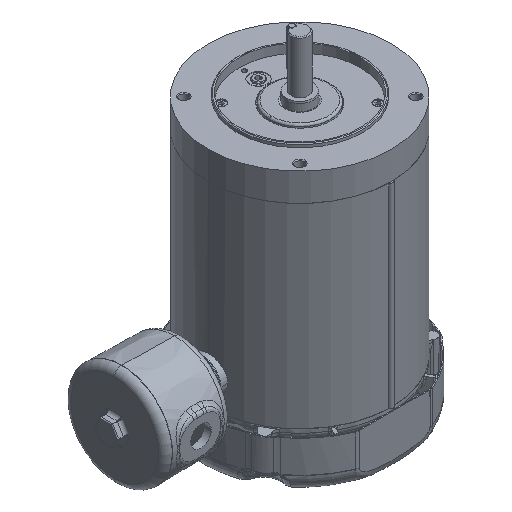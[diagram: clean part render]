
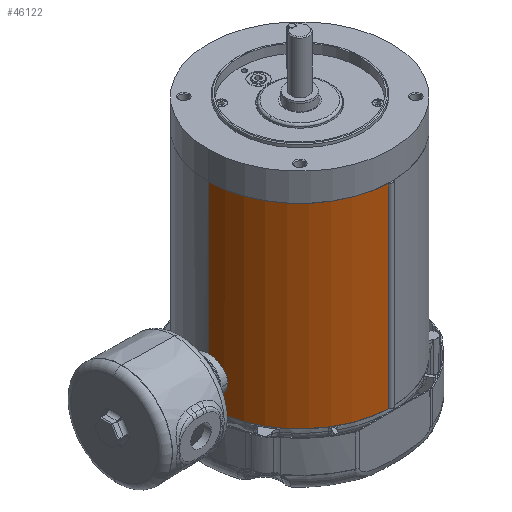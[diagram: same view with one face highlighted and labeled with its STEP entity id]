
A CAD part, isometric view. The second image highlights one B-rep face of the part: STEP entity #46122.
In plain terms, the highlighted cylindrical face has radius 83.21 mm (diameter 166.421 mm), a partial arc.
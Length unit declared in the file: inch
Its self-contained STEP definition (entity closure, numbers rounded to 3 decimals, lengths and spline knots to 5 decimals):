
#226 = CARTESIAN_POINT ( 'NONE',  ( -3.24569, -0.44496, 1.40909 ) ) ;
#1050 = VERTEX_POINT ( 'NONE', #51335 ) ;
#1508 = CARTESIAN_POINT ( 'NONE',  ( -3.276, 0., 1.6175 ) ) ;
#3860 = CARTESIAN_POINT ( 'NONE',  ( -3.26581, -0.25849, 0.52341 ) ) ;
#7529 = AXIS2_PLACEMENT_3D ( 'NONE', #16577, #24428, #34011 ) ;
#7751 = DIRECTION ( 'NONE',  ( 0., 0., -1. ) ) ;
#13022 = CARTESIAN_POINT ( 'NONE',  ( -3.276, 0., 7. ) ) ;
#13426 = CARTESIAN_POINT ( 'NONE',  ( -3.26675, -0.24635, 0.51751 ) ) ;
#16577 = CARTESIAN_POINT ( 'NONE',  ( 0., 0., 7. ) ) ;
#18463 = CARTESIAN_POINT ( 'NONE',  ( -3.26076, -0.31584, 1.52366 ) ) ;
#18716 = LINE ( 'NONE', #114218, #91515 ) ;
#18882 = CARTESIAN_POINT ( 'NONE',  ( -3.26966, -0.2101, 1.5806 ) ) ;
#21168 = VERTEX_POINT ( 'NONE', #79592 ) ;
#23897 = AXIS2_PLACEMENT_3D ( 'NONE', #49620, #57513, #77478 ) ;
#24428 = DIRECTION ( 'NONE',  ( 0., 0., -1. ) ) ;
#26703 = EDGE_CURVE ( 'NONE', #63861, #21168, #18716, .T. ) ;
#28086 = FACE_OUTER_BOUND ( 'NONE', #65636, .T. ) ;
#28394 = CARTESIAN_POINT ( 'NONE',  ( -3.25626, -0.35923, 1.49237 ) ) ;
#29120 = VERTEX_POINT ( 'NONE', #32437 ) ;
#29192 = CARTESIAN_POINT ( 'NONE',  ( -3.23888, -0.49198, 1.34361 ) ) ;
#29522 = CARTESIAN_POINT ( 'NONE',  ( -3.26283, -0.29371, 0.54259 ) ) ;
#29581 = VECTOR ( 'NONE', #101583, 39.37008 ) ;
#29619 = CARTESIAN_POINT ( 'NONE',  ( -3.23678, -0.50554, 1.32048 ) ) ;
#32437 = CARTESIAN_POINT ( 'NONE',  ( -0.09055, -3.27475, 0. ) ) ;
#32479 = CARTESIAN_POINT ( 'NONE',  ( -3.27339, -0.13312, 0.47742 ) ) ;
#34011 = DIRECTION ( 'NONE',  ( -1., 0., 0. ) ) ;
#35230 = ORIENTED_EDGE ( 'NONE', *, *, #26703, .T. ) ;
#37130 = ORIENTED_EDGE ( 'NONE', *, *, #40736, .T. ) ;
#38371 = CARTESIAN_POINT ( 'NONE',  ( -3.27431, -0.10613, 1.60782 ) ) ;
#40736 = EDGE_CURVE ( 'NONE', #41468, #1050, #122264, .T. ) ;
#41468 = VERTEX_POINT ( 'NONE', #94441 ) ;
#41639 = CARTESIAN_POINT ( 'NONE',  ( -3.25033, -0.40969, 0.63211 ) ) ;
#42039 = CARTESIAN_POINT ( 'NONE',  ( -3.27436, -0.10702, 0.47187 ) ) ;
#42957 = EDGE_CURVE ( 'NONE', #86852, #98358, #107278, .T. ) ;
#43284 = CARTESIAN_POINT ( 'NONE',  ( 0., 0., 0. ) ) ;
#44555 = LINE ( 'NONE', #121958, #29581 ) ;
#46122 = ADVANCED_FACE ( 'NONE', ( #28086 ), #81619, .T. ) ;
#46534 = B_SPLINE_CURVE_WITH_KNOTS ( 'NONE', 3,
 ( #88947, #108546, #79824, #41639, #118483, #98086, #70664, #29522, #60733, #3860, #13426, #51546, #89379, #32479, #42039, #95972, #77315, #118083, #61154, #89781 ),
 .UNSPECIFIED., .F., .F.,
 ( 4, 2, 2, 2, 2, 2, 2, 2, 2, 4 ),
 ( 0., 0.00406, 0.0061, 0.00813, 0.00914, 0.01016, 0.01219, 0.01422, 0.01524, 0.01625 ),
 .UNSPECIFIED. ) ;
#47929 = CARTESIAN_POINT ( 'NONE',  ( -3.27471, -0.09295, 1.61013 ) ) ;
#48741 = CARTESIAN_POINT ( 'NONE',  ( -3.23487, -0.5175, 1.29632 ) ) ;
#49620 = CARTESIAN_POINT ( 'NONE',  ( 0., 0., 7. ) ) ;
#49863 = ORIENTED_EDGE ( 'NONE', *, *, #74886, .T. ) ;
#50247 = CIRCLE ( 'NONE', #23897, 3.276 ) ;
#50946 = ORIENTED_EDGE ( 'NONE', *, *, #115597, .T. ) ;
#51335 = CARTESIAN_POINT ( 'NONE',  ( -3.276, 0., 0. ) ) ;
#51546 = CARTESIAN_POINT ( 'NONE',  ( -3.26939, -0.20944, 0.50114 ) ) ;
#51813 = EDGE_CURVE ( 'NONE', #21168, #41468, #46534, .T. ) ;
#55819 = CARTESIAN_POINT ( 'NONE',  ( -3.276, -0.02671, 1.6175 ) ) ;
#57513 = DIRECTION ( 'NONE',  ( 0., 0., 1. ) ) ;
#60733 = CARTESIAN_POINT ( 'NONE',  ( -3.26385, -0.28215, 0.53594 ) ) ;
#61154 = CARTESIAN_POINT ( 'NONE',  ( -3.276, -0.01337, 0.4625 ) ) ;
#61161 = DIRECTION ( 'NONE',  ( 1., 0., 0. ) ) ;
#61963 = DIRECTION ( 'NONE',  ( 0., 0., 1. ) ) ;
#62469 = CARTESIAN_POINT ( 'NONE',  ( -0.09055, -3.27475, 7. ) ) ;
#63861 = VERTEX_POINT ( 'NONE', #97828 ) ;
#64653 = EDGE_CURVE ( 'NONE', #86852, #118617, #50247, .T. ) ;
#65636 = EDGE_LOOP ( 'NONE', ( #111302, #103330, #49863, #35230, #94216, #37130, #50946, #92323 ) ) ;
#66202 = CARTESIAN_POINT ( 'NONE',  ( -3.27279, -0.14558, 1.59901 ) ) ;
#67034 = CARTESIAN_POINT ( 'NONE',  ( -3.25041, -0.40906, 1.44852 ) ) ;
#67433 = CARTESIAN_POINT ( 'NONE',  ( -3.27567, -0.05329, 1.61566 ) ) ;
#70664 = CARTESIAN_POINT ( 'NONE',  ( -3.25966, -0.3276, 0.56367 ) ) ;
#72663 = DIRECTION ( 'NONE',  ( 0., 0., -1. ) ) ;
#72907 = AXIS2_PLACEMENT_3D ( 'NONE', #43284, #61963, #61161 ) ;
#73342 = CARTESIAN_POINT ( 'NONE',  ( -3.276, 0., 7. ) ) ;
#74886 = EDGE_CURVE ( 'NONE', #98358, #63861, #97988, .T. ) ;
#75774 = CARTESIAN_POINT ( 'NONE',  ( -3.26609, -0.25875, 1.55908 ) ) ;
#77315 = CARTESIAN_POINT ( 'NONE',  ( -3.27559, -0.05364, 0.46484 ) ) ;
#77478 = DIRECTION ( 'NONE',  ( 1., 0., 0. ) ) ;
#79592 = CARTESIAN_POINT ( 'NONE',  ( -3.23487, -0.5175, 0.78368 ) ) ;
#79824 = CARTESIAN_POINT ( 'NONE',  ( -3.24324, -0.46355, 0.69145 ) ) ;
#81619 = CYLINDRICAL_SURFACE ( 'NONE', #7529, 3.276 ) ;
#81801 = CARTESIAN_POINT ( 'NONE',  ( -3.276, 0., 7. ) ) ;
#84907 = CARTESIAN_POINT ( 'NONE',  ( -3.24333, -0.46174, 1.38788 ) ) ;
#85015 = VECTOR ( 'NONE', #72663, 39.37008 ) ;
#85301 = CARTESIAN_POINT ( 'NONE',  ( -3.25965, -0.32703, 1.51617 ) ) ;
#86852 = VERTEX_POINT ( 'NONE', #13022 ) ;
#88947 = CARTESIAN_POINT ( 'NONE',  ( -3.23487, -0.5175, 0.78368 ) ) ;
#89379 = CARTESIAN_POINT ( 'NONE',  ( -3.27091, -0.18433, 0.49206 ) ) ;
#89781 = CARTESIAN_POINT ( 'NONE',  ( -3.276, 0., 0.4625 ) ) ;
#91515 = VECTOR ( 'NONE', #103843, 39.37008 ) ;
#92323 = ORIENTED_EDGE ( 'NONE', *, *, #109595, .T. ) ;
#92450 = CIRCLE ( 'NONE', #72907, 3.276 ) ;
#94216 = ORIENTED_EDGE ( 'NONE', *, *, #51813, .T. ) ;
#94441 = CARTESIAN_POINT ( 'NONE',  ( -3.276, 0., 0.4625 ) ) ;
#95972 = CARTESIAN_POINT ( 'NONE',  ( -3.27534, -0.06712, 0.46626 ) ) ;
#97828 = CARTESIAN_POINT ( 'NONE',  ( -3.23487, -0.5175, 1.29632 ) ) ;
#97988 = B_SPLINE_CURVE_WITH_KNOTS ( 'NONE', 3,
 ( #103591, #55819, #67433, #47929, #38371, #105641, #66202, #18882, #75774, #18463, #85301, #105216, #28394, #123148, #67034, #226, #84907, #29192, #29619, #48741 ),
 .UNSPECIFIED., .F., .F.,
 ( 4, 2, 2, 2, 2, 2, 2, 2, 2, 4 ),
 ( 0.01625, 0.01828, 0.0193, 0.02031, 0.02437, 0.02539, 0.0264, 0.02843, 0.03046, 0.03249 ),
 .UNSPECIFIED. ) ;
#98086 = CARTESIAN_POINT ( 'NONE',  ( -3.25741, -0.34914, 0.57922 ) ) ;
#98358 = VERTEX_POINT ( 'NONE', #1508 ) ;
#101583 = DIRECTION ( 'NONE',  ( 0., 0., 1. ) ) ;
#103330 = ORIENTED_EDGE ( 'NONE', *, *, #42957, .T. ) ;
#103591 = CARTESIAN_POINT ( 'NONE',  ( -3.276, 0., 1.6175 ) ) ;
#103843 = DIRECTION ( 'NONE',  ( 0., 0., -1. ) ) ;
#105216 = CARTESIAN_POINT ( 'NONE',  ( -3.25741, -0.34871, 1.50053 ) ) ;
#105641 = CARTESIAN_POINT ( 'NONE',  ( -3.27335, -0.13244, 1.60227 ) ) ;
#107278 = LINE ( 'NONE', #73342, #119198 ) ;
#108546 = CARTESIAN_POINT ( 'NONE',  ( -3.2387, -0.49355, 0.73533 ) ) ;
#109595 = EDGE_CURVE ( 'NONE', #29120, #118617, #44555, .T. ) ;
#111302 = ORIENTED_EDGE ( 'NONE', *, *, #64653, .F. ) ;
#114218 = CARTESIAN_POINT ( 'NONE',  ( -3.23487, -0.5175, 7. ) ) ;
#115597 = EDGE_CURVE ( 'NONE', #1050, #29120, #92450, .T. ) ;
#118083 = CARTESIAN_POINT ( 'NONE',  ( -3.27592, -0.02677, 0.46296 ) ) ;
#118483 = CARTESIAN_POINT ( 'NONE',  ( -3.25275, -0.39013, 0.61337 ) ) ;
#118617 = VERTEX_POINT ( 'NONE', #62469 ) ;
#119198 = VECTOR ( 'NONE', #7751, 39.37008 ) ;
#121958 = CARTESIAN_POINT ( 'NONE',  ( -0.09055, -3.27475, -0.19283 ) ) ;
#122264 = LINE ( 'NONE', #81801, #85015 ) ;
#123148 = CARTESIAN_POINT ( 'NONE',  ( -3.25278, -0.38986, 1.46687 ) ) ;
